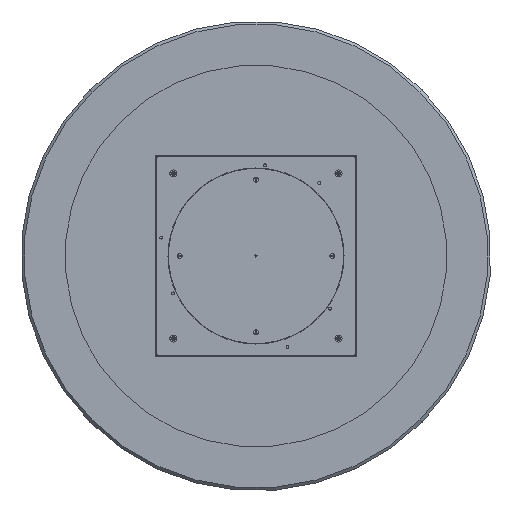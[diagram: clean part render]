
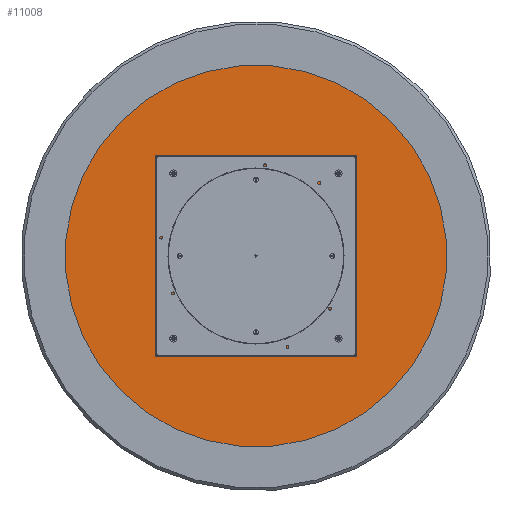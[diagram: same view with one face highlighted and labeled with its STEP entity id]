
A CAD part, front view. The second image highlights one B-rep face of the part: STEP entity #11008.
In plain terms, the highlighted planar face has unit normal (0, -1, 0).
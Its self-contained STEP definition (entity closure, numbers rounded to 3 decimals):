
#98 = CIRCLE ( 'NONE', #2199, 6.3 ) ;
#332 = CIRCLE ( 'NONE', #10813, 650. ) ;
#420 = EDGE_LOOP ( 'NONE', ( #15309, #4448 ) ) ;
#565 = FACE_BOUND ( 'NONE', #7447, .T. ) ;
#648 = DIRECTION ( 'NONE',  ( 0., 0., -1. ) ) ;
#1065 = CARTESIAN_POINT ( 'NONE',  ( -397.5, 0., 3.4 ) ) ;
#1073 = VERTEX_POINT ( 'NONE', #7033 ) ;
#1630 = DIRECTION ( 'NONE',  ( 0., 0., 1. ) ) ;
#1701 = CARTESIAN_POINT ( 'NONE',  ( -397.5, 0., 0. ) ) ;
#1926 = AXIS2_PLACEMENT_3D ( 'NONE', #10729, #5664, #648 ) ;
#1957 = DIRECTION ( 'NONE',  ( 0., 0., 1. ) ) ;
#2044 = CIRCLE ( 'NONE', #4933, 3.4 ) ;
#2099 = ORIENTED_EDGE ( 'NONE', *, *, #15182, .F. ) ;
#2199 = AXIS2_PLACEMENT_3D ( 'NONE', #8698, #10085, #3617 ) ;
#2208 = EDGE_CURVE ( 'NONE', #6371, #10198, #98, .T. ) ;
#2740 = CARTESIAN_POINT ( 'NONE',  ( -397.5, 0., -3.4 ) ) ;
#3108 = DIRECTION ( 'NONE',  ( 0., 1., 0. ) ) ;
#3216 = DIRECTION ( 'NONE',  ( 0., -1., 0. ) ) ;
#3263 = EDGE_CURVE ( 'NONE', #7716, #12040, #13343, .T. ) ;
#3270 = CARTESIAN_POINT ( 'NONE',  ( 0., 0., 0. ) ) ;
#3351 = DIRECTION ( 'NONE',  ( 0., 1., 0. ) ) ;
#3412 = ORIENTED_EDGE ( 'NONE', *, *, #10223, .F. ) ;
#3493 = VERTEX_POINT ( 'NONE', #1065 ) ;
#3617 = DIRECTION ( 'NONE',  ( 0., 0., -1. ) ) ;
#3733 = CIRCLE ( 'NONE', #4264, 650. ) ;
#3824 = CARTESIAN_POINT ( 'NONE',  ( 397.5, 0., 0. ) ) ;
#3861 = VERTEX_POINT ( 'NONE', #13348 ) ;
#3877 = DIRECTION ( 'NONE',  ( 0., 0., 1. ) ) ;
#3970 = EDGE_LOOP ( 'NONE', ( #6526, #9144 ) ) ;
#3994 = ORIENTED_EDGE ( 'NONE', *, *, #6411, .F. ) ;
#4083 = CARTESIAN_POINT ( 'NONE',  ( 397.5, 0., 3.4 ) ) ;
#4221 = ORIENTED_EDGE ( 'NONE', *, *, #14283, .F. ) ;
#4264 = AXIS2_PLACEMENT_3D ( 'NONE', #5504, #3108, #1630 ) ;
#4283 = CARTESIAN_POINT ( 'NONE',  ( 0., 0., 397.5 ) ) ;
#4435 = CARTESIAN_POINT ( 'NONE',  ( 0., 0., -400.9 ) ) ;
#4448 = ORIENTED_EDGE ( 'NONE', *, *, #7059, .F. ) ;
#4575 = DIRECTION ( 'NONE',  ( 0., -1., 0. ) ) ;
#4590 = FACE_BOUND ( 'NONE', #12410, .T. ) ;
#4933 = AXIS2_PLACEMENT_3D ( 'NONE', #3824, #7508, #5299 ) ;
#4974 = AXIS2_PLACEMENT_3D ( 'NONE', #6509, #3216, #6846 ) ;
#5056 = AXIS2_PLACEMENT_3D ( 'NONE', #8797, #13794, #15033 ) ;
#5158 = DIRECTION ( 'NONE',  ( 0., -1., 0. ) ) ;
#5299 = DIRECTION ( 'NONE',  ( 0., 0., -1. ) ) ;
#5504 = CARTESIAN_POINT ( 'NONE',  ( 0., 0., 0. ) ) ;
#5664 = DIRECTION ( 'NONE',  ( 0., -1., 0. ) ) ;
#5796 = CARTESIAN_POINT ( 'NONE',  ( 0., 0., -394.1 ) ) ;
#6033 = CARTESIAN_POINT ( 'NONE',  ( 0., 0., -397.5 ) ) ;
#6148 = AXIS2_PLACEMENT_3D ( 'NONE', #4283, #6659, #15514 ) ;
#6330 = CARTESIAN_POINT ( 'NONE',  ( 0., 0., 0. ) ) ;
#6371 = VERTEX_POINT ( 'NONE', #13107 ) ;
#6411 = EDGE_CURVE ( 'NONE', #3861, #1073, #3733, .T. ) ;
#6463 = CARTESIAN_POINT ( 'NONE',  ( 0., 0., 0. ) ) ;
#6509 = CARTESIAN_POINT ( 'NONE',  ( 0., 0., 397.5 ) ) ;
#6526 = ORIENTED_EDGE ( 'NONE', *, *, #11640, .F. ) ;
#6551 = DIRECTION ( 'NONE',  ( 0., 0., -1. ) ) ;
#6659 = DIRECTION ( 'NONE',  ( 0., -1., 0. ) ) ;
#6846 = DIRECTION ( 'NONE',  ( 0., 0., -1. ) ) ;
#6865 = CIRCLE ( 'NONE', #11561, 3.4 ) ;
#6870 = EDGE_CURVE ( 'NONE', #3493, #7268, #13912, .T. ) ;
#7007 = ORIENTED_EDGE ( 'NONE', *, *, #2208, .F. ) ;
#7033 = CARTESIAN_POINT ( 'NONE',  ( 0., 0., -650. ) ) ;
#7059 = EDGE_CURVE ( 'NONE', #8520, #13966, #6865, .T. ) ;
#7125 = PLANE ( 'NONE',  #15779 ) ;
#7268 = VERTEX_POINT ( 'NONE', #2740 ) ;
#7350 = VERTEX_POINT ( 'NONE', #7927 ) ;
#7383 = CARTESIAN_POINT ( 'NONE',  ( 0., 0., 394.1 ) ) ;
#7398 = ORIENTED_EDGE ( 'NONE', *, *, #6870, .F. ) ;
#7441 = AXIS2_PLACEMENT_3D ( 'NONE', #10561, #4575, #9564 ) ;
#7447 = EDGE_LOOP ( 'NONE', ( #2099, #15148 ) ) ;
#7508 = DIRECTION ( 'NONE',  ( 0., -1., 0. ) ) ;
#7716 = VERTEX_POINT ( 'NONE', #10012 ) ;
#7927 = CARTESIAN_POINT ( 'NONE',  ( 397.5, 0., -3.4 ) ) ;
#8105 = DIRECTION ( 'NONE',  ( 0., 0., -1. ) ) ;
#8520 = VERTEX_POINT ( 'NONE', #5796 ) ;
#8666 = EDGE_CURVE ( 'NONE', #11777, #7350, #2044, .T. ) ;
#8698 = CARTESIAN_POINT ( 'NONE',  ( 0., 0., 0. ) ) ;
#8797 = CARTESIAN_POINT ( 'NONE',  ( 397.5, 0., 0. ) ) ;
#9144 = ORIENTED_EDGE ( 'NONE', *, *, #8666, .F. ) ;
#9493 = FACE_BOUND ( 'NONE', #3970, .T. ) ;
#9564 = DIRECTION ( 'NONE',  ( 0., 0., -1. ) ) ;
#9618 = ORIENTED_EDGE ( 'NONE', *, *, #14451, .F. ) ;
#10012 = CARTESIAN_POINT ( 'NONE',  ( 0., 0., 400.9 ) ) ;
#10085 = DIRECTION ( 'NONE',  ( 0., -1., 0. ) ) ;
#10094 = DIRECTION ( 'NONE',  ( 0., 1., 0. ) ) ;
#10198 = VERTEX_POINT ( 'NONE', #14950 ) ;
#10223 = EDGE_CURVE ( 'NONE', #1073, #3861, #332, .T. ) ;
#10314 = CIRCLE ( 'NONE', #7441, 3.4 ) ;
#10342 = CIRCLE ( 'NONE', #6148, 3.4 ) ;
#10561 = CARTESIAN_POINT ( 'NONE',  ( -397.5, 0., 0. ) ) ;
#10729 = CARTESIAN_POINT ( 'NONE',  ( 0., 0., -397.5 ) ) ;
#10813 = AXIS2_PLACEMENT_3D ( 'NONE', #6330, #10094, #3877 ) ;
#10874 = DIRECTION ( 'NONE',  ( 0., -1., 0. ) ) ;
#11008 = ADVANCED_FACE ( 'NONE', ( #4590, #12124, #565, #9493, #11884, #13185 ), #7125, .F. ) ;
#11090 = AXIS2_PLACEMENT_3D ( 'NONE', #6463, #5158, #6551 ) ;
#11362 = CIRCLE ( 'NONE', #1926, 3.4 ) ;
#11561 = AXIS2_PLACEMENT_3D ( 'NONE', #6033, #10874, #13400 ) ;
#11640 = EDGE_CURVE ( 'NONE', #7350, #11777, #14738, .T. ) ;
#11777 = VERTEX_POINT ( 'NONE', #4083 ) ;
#11780 = DIRECTION ( 'NONE',  ( 0., -1., 0. ) ) ;
#11884 = FACE_BOUND ( 'NONE', #420, .T. ) ;
#12040 = VERTEX_POINT ( 'NONE', #7383 ) ;
#12124 = FACE_BOUND ( 'NONE', #15405, .T. ) ;
#12399 = EDGE_CURVE ( 'NONE', #13966, #8520, #11362, .T. ) ;
#12410 = EDGE_LOOP ( 'NONE', ( #7007, #4221 ) ) ;
#12748 = EDGE_LOOP ( 'NONE', ( #3412, #3994 ) ) ;
#12878 = AXIS2_PLACEMENT_3D ( 'NONE', #1701, #11780, #8105 ) ;
#13107 = CARTESIAN_POINT ( 'NONE',  ( 0., 0., -6.3 ) ) ;
#13185 = FACE_OUTER_BOUND ( 'NONE', #12748, .T. ) ;
#13343 = CIRCLE ( 'NONE', #4974, 3.4 ) ;
#13348 = CARTESIAN_POINT ( 'NONE',  ( 0., 0., 650. ) ) ;
#13400 = DIRECTION ( 'NONE',  ( 0., 0., -1. ) ) ;
#13794 = DIRECTION ( 'NONE',  ( 0., -1., 0. ) ) ;
#13912 = CIRCLE ( 'NONE', #12878, 3.4 ) ;
#13966 = VERTEX_POINT ( 'NONE', #4435 ) ;
#14283 = EDGE_CURVE ( 'NONE', #10198, #6371, #15578, .T. ) ;
#14451 = EDGE_CURVE ( 'NONE', #7268, #3493, #10314, .T. ) ;
#14738 = CIRCLE ( 'NONE', #5056, 3.4 ) ;
#14950 = CARTESIAN_POINT ( 'NONE',  ( 0., 0., 6.3 ) ) ;
#15033 = DIRECTION ( 'NONE',  ( 0., 0., -1. ) ) ;
#15148 = ORIENTED_EDGE ( 'NONE', *, *, #3263, .F. ) ;
#15182 = EDGE_CURVE ( 'NONE', #12040, #7716, #10342, .T. ) ;
#15309 = ORIENTED_EDGE ( 'NONE', *, *, #12399, .F. ) ;
#15405 = EDGE_LOOP ( 'NONE', ( #9618, #7398 ) ) ;
#15514 = DIRECTION ( 'NONE',  ( 0., 0., -1. ) ) ;
#15578 = CIRCLE ( 'NONE', #11090, 6.3 ) ;
#15779 = AXIS2_PLACEMENT_3D ( 'NONE', #3270, #3351, #1957 ) ;
